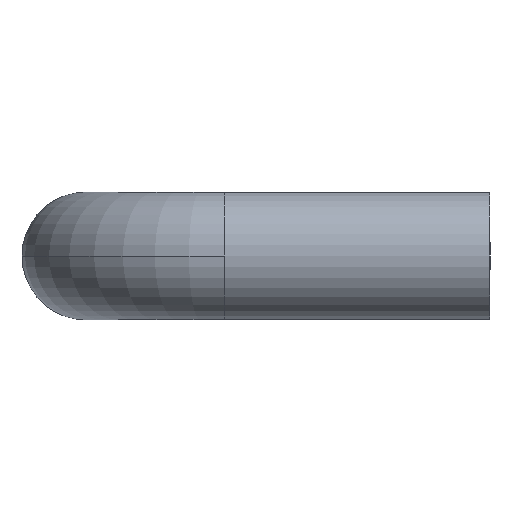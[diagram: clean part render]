
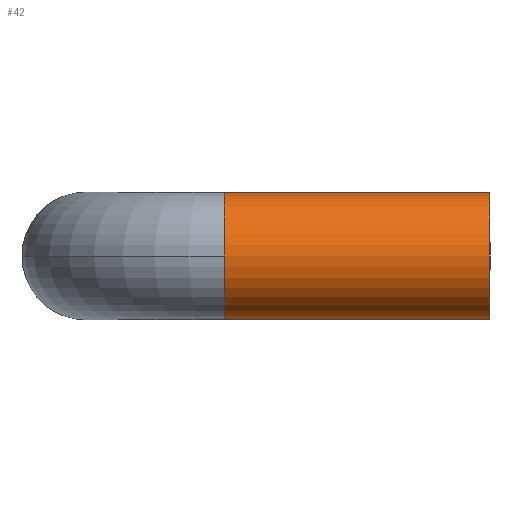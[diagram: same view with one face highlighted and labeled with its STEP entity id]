
A CAD part, left-side view. The second image highlights one B-rep face of the part: STEP entity #42.
In plain terms, the highlighted cylindrical face has radius 3 mm (diameter 6 mm), a partial arc.
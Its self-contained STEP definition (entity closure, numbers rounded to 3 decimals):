
#24 = AXIS2_PLACEMENT_3D ( 'NONE', #292, #293, #294 ) ;
#27 = AXIS2_PLACEMENT_3D ( 'NONE', #295, #296, #297 ) ;
#42 = ADVANCED_FACE ( 'NONE', ( #492 ), #497, .T. ) ;
#61 = EDGE_CURVE ( 'NONE', #455, #440, #544, .T. ) ;
#62 = EDGE_CURVE ( 'NONE', #438, #439, #543, .T. ) ;
#72 = AXIS2_PLACEMENT_3D ( 'NONE', #172, #159, #158 ) ;
#89 = EDGE_CURVE ( 'NONE', #453, #455, #551, .T. ) ;
#107 = EDGE_CURVE ( 'NONE', #440, #439, #574, .T. ) ;
#109 = EDGE_CURVE ( 'NONE', #453, #438, #577, .T. ) ;
#158 = DIRECTION ( 'NONE',  ( 0., 0., -1. ) ) ;
#159 = DIRECTION ( 'NONE',  ( 0., -1., 0. ) ) ;
#172 = CARTESIAN_POINT ( 'NONE',  ( -30., -6.5, 0. ) ) ;
#202 = ORIENTED_EDGE ( 'NONE', *, *, #107, .F. ) ;
#204 = ORIENTED_EDGE ( 'NONE', *, *, #61, .F. ) ;
#206 = ORIENTED_EDGE ( 'NONE', *, *, #89, .F. ) ;
#208 = ORIENTED_EDGE ( 'NONE', *, *, #109, .T. ) ;
#210 = ORIENTED_EDGE ( 'NONE', *, *, #62, .T. ) ;
#292 = CARTESIAN_POINT ( 'NONE',  ( -30., -6.5, 0. ) ) ;
#293 = DIRECTION ( 'NONE',  ( 0., 1., 0. ) ) ;
#294 = DIRECTION ( 'NONE',  ( -1., 0., 0. ) ) ;
#295 = CARTESIAN_POINT ( 'NONE',  ( -30., -19., 0. ) ) ;
#296 = DIRECTION ( 'NONE',  ( 0., 1., 0. ) ) ;
#297 = DIRECTION ( 'NONE',  ( -1., 0., 0. ) ) ;
#310 = CARTESIAN_POINT ( 'NONE',  ( -30., -6.5, 0. ) ) ;
#311 = DIRECTION ( 'NONE',  ( 0., 1., 0. ) ) ;
#312 = DIRECTION ( 'NONE',  ( -1., 0., 0. ) ) ;
#354 = CARTESIAN_POINT ( 'NONE',  ( -30., -6.5, 3. ) ) ;
#355 = DIRECTION ( 'NONE',  ( 0., -1., 0. ) ) ;
#359 = DIRECTION ( 'NONE',  ( 0., -1., 0. ) ) ;
#363 = CARTESIAN_POINT ( 'NONE',  ( -30., -6.5, -3. ) ) ;
#388 = CARTESIAN_POINT ( 'NONE',  ( -30., -19., -3. ) ) ;
#394 = CARTESIAN_POINT ( 'NONE',  ( -30., -19., 3. ) ) ;
#399 = CARTESIAN_POINT ( 'NONE',  ( -30., -6.5, 3. ) ) ;
#410 = CARTESIAN_POINT ( 'NONE',  ( -30., -6.5, -3. ) ) ;
#412 = CARTESIAN_POINT ( 'NONE',  ( -33., -6.5, 0. ) ) ;
#438 = VERTEX_POINT ( 'NONE', #388 ) ;
#439 = VERTEX_POINT ( 'NONE', #394 ) ;
#440 = VERTEX_POINT ( 'NONE', #399 ) ;
#453 = VERTEX_POINT ( 'NONE', #410 ) ;
#455 = VERTEX_POINT ( 'NONE', #412 ) ;
#488 = EDGE_LOOP ( 'NONE', ( #202, #204, #206, #208, #210 ) ) ;
#492 = FACE_OUTER_BOUND ( 'NONE', #488, .T. ) ;
#497 = CYLINDRICAL_SURFACE ( 'NONE', #72, 3. ) ;
#543 = CIRCLE ( 'NONE', #27, 3. ) ;
#544 = CIRCLE ( 'NONE', #24, 3. ) ;
#551 = CIRCLE ( 'NONE', #599, 3. ) ;
#574 = LINE ( 'NONE', #354, #576 ) ;
#576 = VECTOR ( 'NONE', #355, 1000. ) ;
#577 = LINE ( 'NONE', #363, #579 ) ;
#579 = VECTOR ( 'NONE', #359, 1000. ) ;
#599 = AXIS2_PLACEMENT_3D ( 'NONE', #310, #311, #312 ) ;
